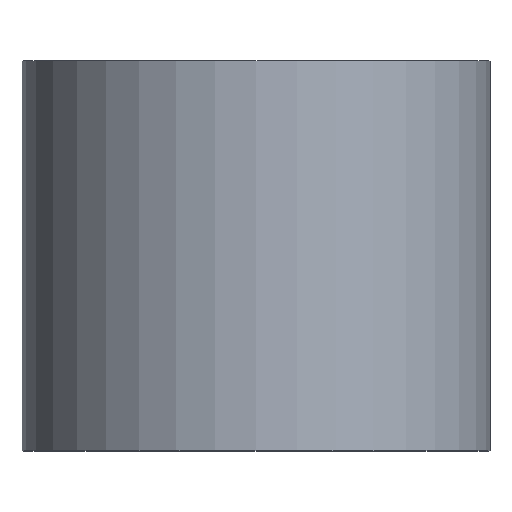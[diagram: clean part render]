
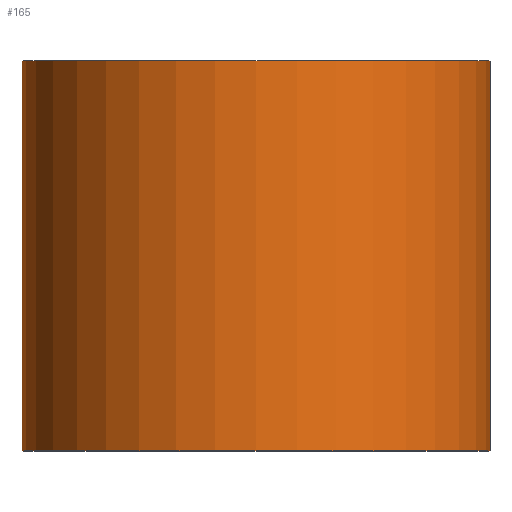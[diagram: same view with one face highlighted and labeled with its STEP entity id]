
A CAD part, top view. The second image highlights one B-rep face of the part: STEP entity #165.
In plain terms, the highlighted cylindrical face has radius 6 mm (diameter 12 mm), a partial arc.
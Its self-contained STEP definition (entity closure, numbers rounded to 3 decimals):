
#8 = CARTESIAN_POINT ( 'NONE',  ( 6., 0., 0. ) ) ;
#18 = CARTESIAN_POINT ( 'NONE',  ( 6., 0., 0. ) ) ;
#25 = VERTEX_POINT ( 'NONE', #8 ) ;
#45 = LINE ( 'NONE', #77, #280 ) ;
#47 = VERTEX_POINT ( 'NONE', #99 ) ;
#48 = EDGE_CURVE ( 'NONE', #47, #166, #45, .T. ) ;
#56 = VECTOR ( 'NONE', #157, 1000. ) ;
#59 = DIRECTION ( 'NONE',  ( 0., 1., 0. ) ) ;
#64 = LINE ( 'NONE', #18, #56 ) ;
#76 = ORIENTED_EDGE ( 'NONE', *, *, #219, .F. ) ;
#77 = CARTESIAN_POINT ( 'NONE',  ( -6., 0., 0. ) ) ;
#84 = CARTESIAN_POINT ( 'NONE',  ( -6., 10., 0. ) ) ;
#91 = DIRECTION ( 'NONE',  ( -1., 0., 0. ) ) ;
#94 = AXIS2_PLACEMENT_3D ( 'NONE', #217, #260, #169 ) ;
#99 = CARTESIAN_POINT ( 'NONE',  ( -6., 0., 0. ) ) ;
#106 = EDGE_CURVE ( 'NONE', #47, #25, #170, .T. ) ;
#108 = ORIENTED_EDGE ( 'NONE', *, *, #106, .T. ) ;
#117 = CYLINDRICAL_SURFACE ( 'NONE', #94, 6. ) ;
#119 = VERTEX_POINT ( 'NONE', #214 ) ;
#155 = EDGE_LOOP ( 'NONE', ( #108, #185, #76, #245 ) ) ;
#157 = DIRECTION ( 'NONE',  ( 0., 1., 0. ) ) ;
#165 = ADVANCED_FACE ( 'NONE', ( #259 ), #117, .T. ) ;
#166 = VERTEX_POINT ( 'NONE', #84 ) ;
#169 = DIRECTION ( 'NONE',  ( -1., 0., 0. ) ) ;
#170 = CIRCLE ( 'NONE', #246, 6. ) ;
#175 = DIRECTION ( 'NONE',  ( -1., 0., 0. ) ) ;
#185 = ORIENTED_EDGE ( 'NONE', *, *, #225, .T. ) ;
#214 = CARTESIAN_POINT ( 'NONE',  ( 6., 10., 0. ) ) ;
#217 = CARTESIAN_POINT ( 'NONE',  ( 0., 0., 0. ) ) ;
#219 = EDGE_CURVE ( 'NONE', #166, #119, #301, .T. ) ;
#225 = EDGE_CURVE ( 'NONE', #25, #119, #64, .T. ) ;
#227 = CARTESIAN_POINT ( 'NONE',  ( 0., 10., 0. ) ) ;
#242 = CARTESIAN_POINT ( 'NONE',  ( 0., 0., 0. ) ) ;
#245 = ORIENTED_EDGE ( 'NONE', *, *, #48, .F. ) ;
#246 = AXIS2_PLACEMENT_3D ( 'NONE', #242, #59, #175 ) ;
#254 = AXIS2_PLACEMENT_3D ( 'NONE', #227, #297, #91 ) ;
#259 = FACE_OUTER_BOUND ( 'NONE', #155, .T. ) ;
#260 = DIRECTION ( 'NONE',  ( 0., 1., 0. ) ) ;
#280 = VECTOR ( 'NONE', #283, 1000. ) ;
#283 = DIRECTION ( 'NONE',  ( 0., 1., 0. ) ) ;
#297 = DIRECTION ( 'NONE',  ( 0., 1., 0. ) ) ;
#301 = CIRCLE ( 'NONE', #254, 6. ) ;
